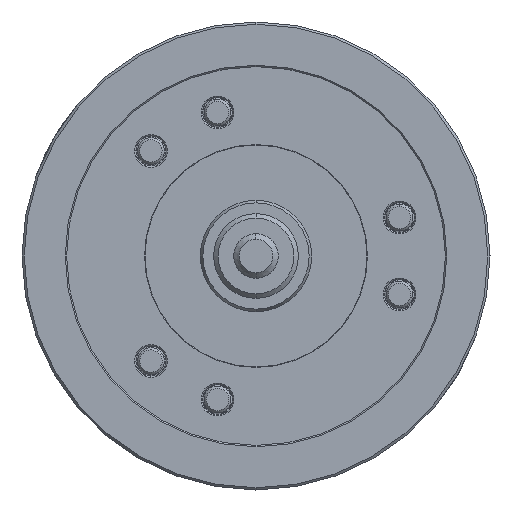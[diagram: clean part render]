
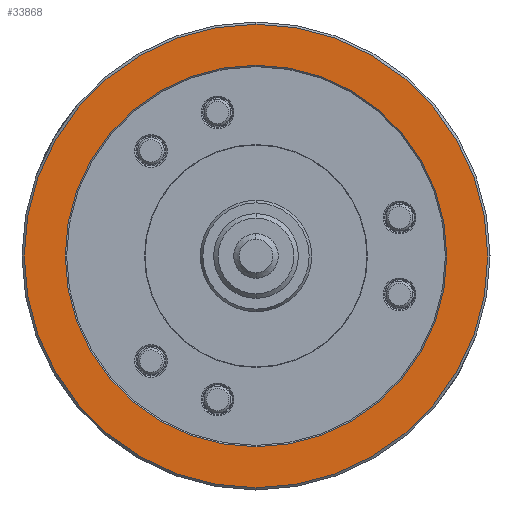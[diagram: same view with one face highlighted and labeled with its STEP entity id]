
A CAD part, left-side view. The second image highlights one B-rep face of the part: STEP entity #33868.
In plain terms, the highlighted planar face has unit normal (-1, 0, 0).
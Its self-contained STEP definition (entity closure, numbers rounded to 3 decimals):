
#1074 = CARTESIAN_POINT ( 'NONE',  ( -90., 0., -85.6 ) ) ;
#1310 = ORIENTED_EDGE ( 'NONE', *, *, #27193, .T. ) ;
#1522 = AXIS2_PLACEMENT_3D ( 'NONE', #13508, #35119, #16624 ) ;
#1902 = VERTEX_POINT ( 'NONE', #1074 ) ;
#2635 = DIRECTION ( 'NONE',  ( 0., 0., 1. ) ) ;
#4330 = DIRECTION ( 'NONE',  ( 1., 0., 0. ) ) ;
#5498 = AXIS2_PLACEMENT_3D ( 'NONE', #22776, #4330, #25874 ) ;
#7530 = FACE_BOUND ( 'NONE', #10701, .T. ) ;
#7568 = VERTEX_POINT ( 'NONE', #21018 ) ;
#9628 = AXIS2_PLACEMENT_3D ( 'NONE', #10746, #32306, #13822 ) ;
#10444 = DIRECTION ( 'NONE',  ( 1., 0., 0. ) ) ;
#10543 = ORIENTED_EDGE ( 'NONE', *, *, #16835, .F. ) ;
#10701 = EDGE_LOOP ( 'NONE', ( #1310, #29413 ) ) ;
#10746 = CARTESIAN_POINT ( 'NONE',  ( -90., 0., 0. ) ) ;
#11243 = EDGE_LOOP ( 'NONE', ( #10543, #16044 ) ) ;
#11654 = CARTESIAN_POINT ( 'NONE',  ( -90., 0., 104. ) ) ;
#12812 = CIRCLE ( 'NONE', #19559, 85.6 ) ;
#13508 = CARTESIAN_POINT ( 'NONE',  ( -90., 0., 0. ) ) ;
#13822 = DIRECTION ( 'NONE',  ( 0., 0., -1. ) ) ;
#15505 = VERTEX_POINT ( 'NONE', #34848 ) ;
#16044 = ORIENTED_EDGE ( 'NONE', *, *, #20335, .F. ) ;
#16624 = DIRECTION ( 'NONE',  ( 0., 0., -1. ) ) ;
#16835 = EDGE_CURVE ( 'NONE', #7568, #27424, #38922, .T. ) ;
#16908 = CIRCLE ( 'NONE', #5498, 104. ) ;
#19554 = FACE_OUTER_BOUND ( 'NONE', #11243, .T. ) ;
#19559 = AXIS2_PLACEMENT_3D ( 'NONE', #28915, #10444, #32015 ) ;
#19924 = CIRCLE ( 'NONE', #9628, 85.6 ) ;
#20335 = EDGE_CURVE ( 'NONE', #27424, #7568, #16908, .T. ) ;
#20406 = EDGE_CURVE ( 'NONE', #1902, #15505, #19924, .T. ) ;
#21018 = CARTESIAN_POINT ( 'NONE',  ( -90., 0., -104. ) ) ;
#21051 = DIRECTION ( 'NONE',  ( -1., 0., 0. ) ) ;
#22776 = CARTESIAN_POINT ( 'NONE',  ( -90., 0., 0. ) ) ;
#25874 = DIRECTION ( 'NONE',  ( 0., 0., -1. ) ) ;
#27193 = EDGE_CURVE ( 'NONE', #15505, #1902, #12812, .T. ) ;
#27424 = VERTEX_POINT ( 'NONE', #11654 ) ;
#28915 = CARTESIAN_POINT ( 'NONE',  ( -90., 0., 0. ) ) ;
#29413 = ORIENTED_EDGE ( 'NONE', *, *, #20406, .T. ) ;
#30240 = CARTESIAN_POINT ( 'NONE',  ( -90., 104., 0. ) ) ;
#31144 = AXIS2_PLACEMENT_3D ( 'NONE', #30240, #21051, #2635 ) ;
#32015 = DIRECTION ( 'NONE',  ( 0., 0., -1. ) ) ;
#32306 = DIRECTION ( 'NONE',  ( 1., 0., 0. ) ) ;
#33868 = ADVANCED_FACE ( 'NONE', ( #7530, #19554 ), #39603, .T. ) ;
#34848 = CARTESIAN_POINT ( 'NONE',  ( -90., 0., 85.6 ) ) ;
#35119 = DIRECTION ( 'NONE',  ( 1., 0., 0. ) ) ;
#38922 = CIRCLE ( 'NONE', #1522, 104. ) ;
#39603 = PLANE ( 'NONE',  #31144 ) ;
